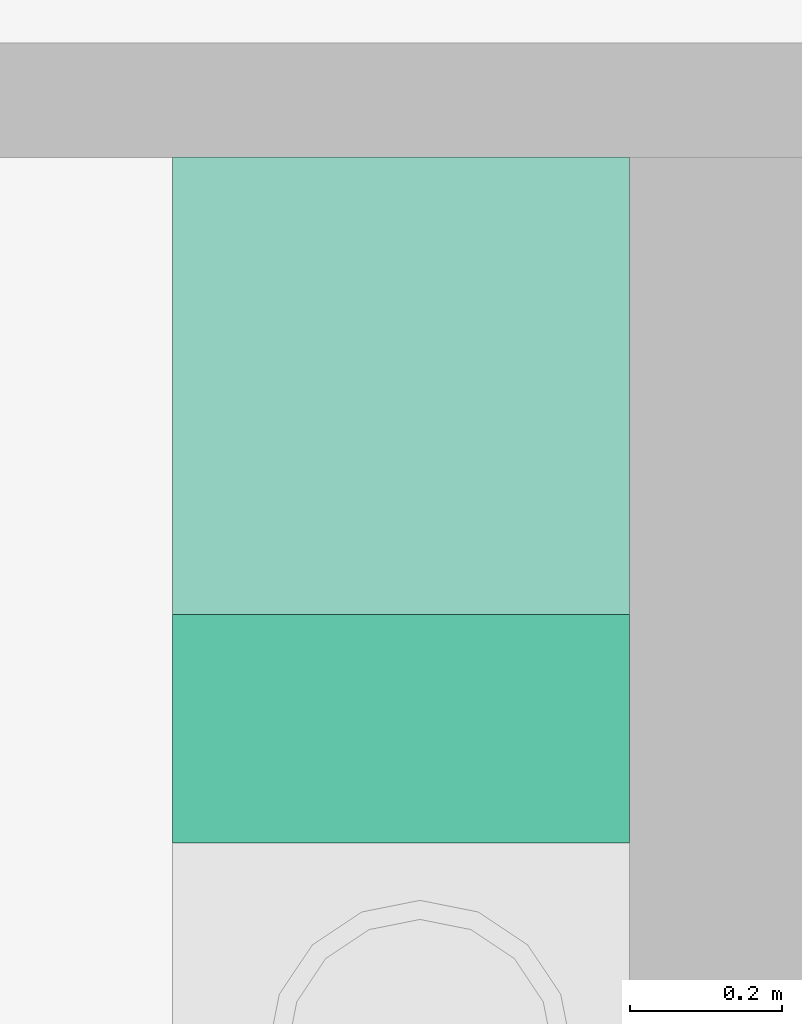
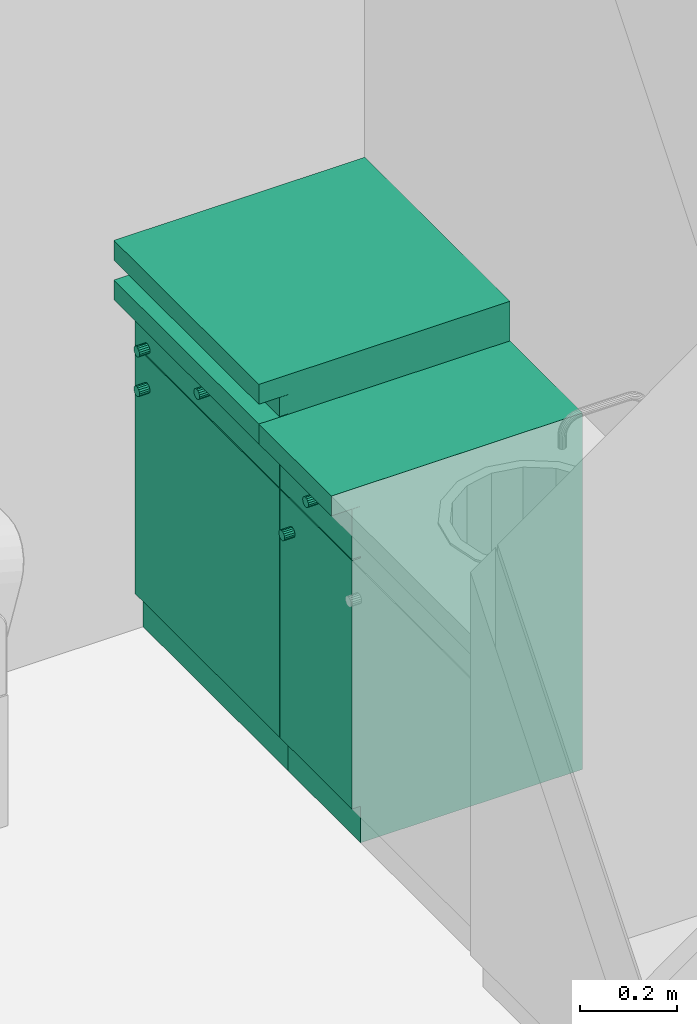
# One storey, part 41 of 165: 3 flow terminals.
"""IFC2X3 building model written with IfcOpenShell, lengths in millimetres."""

from ifc_helpers import new_model, entity, si_unit, converted_unit, money_unit, direction, frame, origin_with_axes, place, context, subcontext, project, spatial, faceted_brep, source, transform, mapped, material, material_list, type_object, element, save


model = new_model("IFC2X3")

# Units and contexts
model_context = context("Model", 3, precision=1e-05, world=origin_with_axes(), true_north=direction((0.0, 1.0)))
body_context = subcontext(model_context, "Body", "Model", "MODEL_VIEW")
ifc_project = project(units=[si_unit("LENGTHUNIT", "METRE", prefix="MILLI"), si_unit("AREAUNIT", "SQUARE_METRE"), si_unit("VOLUMEUNIT", "CUBIC_METRE"), converted_unit("PLANEANGLEUNIT", "DEGREE", entity("IfcPlaneAngleMeasure", 0.0174532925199), si_unit("PLANEANGLEUNIT", "RADIAN"), dimensions=[0, 0, 0, 0, 0, 0, 0]), si_unit("SOLIDANGLEUNIT", "STERADIAN"), money_unit("USD"), converted_unit("TIMEUNIT", "Year", entity("IfcTimeMeasure", 31556926.0), si_unit("TIMEUNIT", "SECOND"), dimensions=[0, 0, 0, 0, 0, 0, 0]), si_unit("MASSUNIT", "GRAM"), si_unit("THERMODYNAMICTEMPERATUREUNIT", "DEGREE_CELSIUS"), si_unit("LUMINOUSINTENSITYUNIT", "LUMEN")], contexts=[model_context])

# Site, building, storey
site_placement = place(None, origin_with_axes())
site = spatial("IfcSite", under=ifc_project, at=site_placement, Name="Site", CompositionType="ELEMENT")
building_placement = place(site_placement, origin_with_axes())
building = spatial("IfcBuilding", under=site, at=building_placement, Name="Building", CompositionType="ELEMENT")
storey_placement = place(building_placement, frame((0.0, 0.0, 6300.0), z_axis=(0.0, 0.0, 1.0), x_axis=(1.0, 0.0, 0.0)))
storey = spatial("IfcBuildingStorey", under=building, at=storey_placement, Name="4KORRUS", CompositionType="ELEMENT", Elevation=6300.0)

# Flow terminals
ifc_material = material(Name="Background")
ifc_material_list = material_list([ifc_material])
sanitary_terminal_type = type_object("IfcSanitaryTerminalType", Name="Cabinet Base Single Door 19", PredefinedType="SINK")
shared_shape_1 = source(origin_with_axes(), body_context, "Body", "Brep", [
    faceted_brep([(-20.0, 70.0, 710.0), (-20.0, 70.0, 730.0), (-580.0, 70.0, 730.0), (-580.0, 70.0, 710.0), (-20.0, 580.0, 710.0), (-20.0, 580.0, 730.0), (-580.0, 580.0, 730.0), (-580.0, 580.0, 710.0)], [[[0, 1, 2, 3]], [[4, 5, 1, 0]], [[1, 5, 6, 2]], [[3, 2, 6, 7]], [[0, 3, 7, 4]], [[7, 6, 5, 4]]]),
    faceted_brep([(0.0, 70.0, 0.0), (0.0, 70.0, 90.0), (-600.0, 70.0, 90.0), (-600.0, 70.0, 0.0), (0.0, 600.0, 0.0), (0.0, 600.0, 90.0), (-600.0, 600.0, 90.0), (-600.0, 600.0, 0.0)], [[[0, 1, 2, 3]], [[4, 5, 1, 0]], [[1, 5, 6, 2]], [[3, 2, 6, 7]], [[0, 3, 7, 4]], [[7, 6, 5, 4]]]),
    faceted_brep([(0.0, 70.0, 830.0), (0.0, 70.0, 850.0), (-20.0, 70.0, 850.0), (-20.0, 70.0, 830.0), (0.0, 600.0, 830.0), (0.0, 600.0, 850.0), (-20.0, 600.0, 850.0), (-580.0, 600.0, 850.0), (-600.0, 600.0, 850.0), (-600.0, 70.0, 850.0), (-580.0, 70.0, 850.0), (-580.0, 70.0, 830.0), (-600.0, 70.0, 830.0), (-600.0, 600.0, 830.0), (-580.0, 600.0, 830.0), (-20.0, 600.0, 830.0)], [[[0, 1, 2, 3]], [[4, 5, 1, 0]], [[1, 5, 6, 7, 8, 9, 10, 2]], [[3, 2, 10, 11]], [[0, 3, 11, 12, 13, 14, 15, 4]], [[15, 6, 5, 4]], [[14, 7, 6, 15]], [[13, 8, 7, 14]], [[12, 9, 8, 13]], [[11, 10, 9, 12]]]),
    faceted_brep([(0.0, 70.0, 90.0), (0.0, 70.0, 110.0), (-20.0, 70.0, 110.0), (-20.0, 70.0, 90.0), (0.0, 600.0, 90.0), (0.0, 600.0, 110.0), (-20.0, 600.0, 110.0), (-580.0, 600.0, 110.0), (-600.0, 600.0, 110.0), (-600.0, 70.0, 110.0), (-580.0, 70.0, 110.0), (-580.0, 70.0, 90.0), (-600.0, 70.0, 90.0), (-600.0, 600.0, 90.0), (-580.0, 600.0, 90.0), (-20.0, 600.0, 90.0)], [[[0, 1, 2, 3]], [[4, 5, 1, 0]], [[1, 5, 6, 7, 8, 9, 10, 2]], [[3, 2, 10, 11]], [[0, 3, 11, 12, 13, 14, 15, 4]], [[15, 6, 5, 4]], [[14, 7, 6, 15]], [[13, 8, 7, 14]], [[12, 9, 8, 13]], [[11, 10, 9, 12]]]),
    faceted_brep([(0.0, 70.0, 110.0), (0.0, 70.0, 830.0), (-20.0, 70.0, 830.0), (-20.0, 70.0, 110.0), (0.0, 600.0, 110.0), (0.0, 600.0, 830.0), (-600.0, 600.0, 830.0), (-600.0, 70.0, 830.0), (-580.0, 70.0, 830.0), (-580.0, 580.0, 830.0), (-20.0, 580.0, 830.0), (-20.0, 580.0, 110.0), (-580.0, 580.0, 110.0), (-580.0, 70.0, 110.0), (-600.0, 70.0, 110.0), (-600.0, 600.0, 110.0)], [[[0, 1, 2, 3]], [[4, 5, 1, 0]], [[1, 5, 6, 7, 8, 9, 10, 2]], [[3, 2, 10, 11]], [[0, 3, 11, 12, 13, 14, 15, 4]], [[15, 6, 5, 4]], [[14, 7, 6, 15]], [[13, 8, 7, 14]], [[12, 9, 8, 13]], [[11, 10, 9, 12]]]),
    faceted_brep([(-580.0, 70.0, 385.0), (-580.0, 70.0, 405.0), (-580.0, 580.0, 405.0), (-580.0, 580.0, 385.0), (-20.0, 70.0, 385.0), (-20.0, 70.0, 405.0), (-20.0, 580.0, 405.0), (-20.0, 580.0, 385.0)], [[[0, 1, 2, 3]], [[4, 5, 1, 0]], [[1, 5, 6, 2]], [[3, 2, 6, 7]], [[0, 3, 7, 4]], [[7, 6, 5, 4]]]),
    faceted_brep([(0.0, 0.0, 850.0), (0.0, 0.0, 900.0), (-600.0, 0.0, 900.0), (-600.0, 0.0, 850.0), (0.0, 600.0, 850.0), (0.0, 600.0, 900.0), (-600.0, 600.0, 900.0), (-600.0, 600.0, 850.0)], [[[0, 1, 2, 3]], [[4, 5, 1, 0]], [[1, 5, 6, 2]], [[3, 2, 6, 7]], [[0, 3, 7, 4]], [[7, 6, 5, 4]]]),
    faceted_brep([(-1.5, 70.0, 721.5), (-1.5, 50.0, 721.5), (-598.5, 50.0, 721.5), (-598.5, 70.0, 721.5), (-1.5, 70.0, 848.5), (-1.5, 50.0, 848.5), (-598.5, 50.0, 848.5), (-598.5, 70.0, 848.5)], [[[0, 1, 2, 3]], [[4, 5, 1, 0]], [[1, 5, 6, 2]], [[3, 2, 6, 7]], [[0, 3, 7, 4]], [[7, 6, 5, 4]]]),
    faceted_brep([(-295.408, 50.0, 773.913), (-300.0, 50.0, 773.0), (-304.592, 50.0, 773.913), (-308.485, 50.0, 776.515), (-311.087, 50.0, 780.408), (-312.0, 50.0, 785.0), (-311.087, 50.0, 789.592), (-308.485, 50.0, 793.485), (-304.592, 50.0, 796.087), (-300.0, 50.0, 797.0), (-295.408, 50.0, 796.087), (-291.515, 50.0, 793.485), (-288.913, 50.0, 789.592), (-288.0, 50.0, 785.0), (-288.913, 50.0, 780.408), (-291.515, 50.0, 776.515), (-295.408, 25.0, 773.913), (-300.0, 25.0, 773.0), (-304.592, 25.0, 773.913), (-308.485, 25.0, 776.515), (-311.087, 25.0, 780.408), (-312.0, 25.0, 785.0), (-311.087, 25.0, 789.592), (-308.485, 25.0, 793.485), (-304.592, 25.0, 796.087), (-300.0, 25.0, 797.0), (-295.408, 25.0, 796.087), (-291.515, 25.0, 793.485), (-288.913, 25.0, 789.592), (-288.0, 25.0, 785.0), (-288.913, 25.0, 780.408), (-291.515, 25.0, 776.515)], [[[0, 1, 2, 3, 4, 5, 6, 7, 8, 9, 10, 11, 12, 13, 14, 15]], [[0, 16, 17, 1]], [[1, 17, 18, 2]], [[2, 18, 19, 3]], [[3, 19, 20, 4]], [[4, 20, 21, 5]], [[5, 21, 22, 6]], [[6, 22, 23, 7]], [[7, 23, 24, 8]], [[8, 24, 25, 9]], [[9, 25, 26, 10]], [[10, 26, 27, 11]], [[11, 27, 28, 12]], [[12, 28, 29, 13]], [[13, 29, 30, 14]], [[14, 30, 31, 15]], [[15, 31, 16, 0]], [[16, 31, 30, 29, 28, 27, 26, 25, 24, 23, 22, 21, 20, 19, 18, 17]]]),
    faceted_brep([(-1.5, 70.0, 91.5), (-1.5, 50.0, 91.5), (-598.5, 50.0, 91.5), (-598.5, 70.0, 91.5), (-1.5, 70.0, 718.5), (-1.5, 50.0, 718.5), (-598.5, 50.0, 718.5), (-598.5, 70.0, 718.5)], [[[0, 1, 2, 3]], [[4, 5, 1, 0]], [[1, 5, 6, 2]], [[3, 2, 6, 7]], [[0, 3, 7, 4]], [[7, 6, 5, 4]]]),
    faceted_brep([(-559.587, 50.0, 636.908), (-560.5, 50.0, 641.5), (-559.587, 50.0, 646.092), (-556.985, 50.0, 649.985), (-553.092, 50.0, 652.587), (-548.5, 50.0, 653.5), (-543.908, 50.0, 652.587), (-540.015, 50.0, 649.985), (-537.413, 50.0, 646.092), (-536.5, 50.0, 641.5), (-537.413, 50.0, 636.908), (-540.015, 50.0, 633.015), (-543.908, 50.0, 630.413), (-548.5, 50.0, 629.5), (-553.092, 50.0, 630.413), (-556.985, 50.0, 633.015), (-559.587, 25.0, 636.908), (-560.5, 25.0, 641.5), (-559.587, 25.0, 646.092), (-556.985, 25.0, 649.985), (-553.092, 25.0, 652.587), (-548.5, 25.0, 653.5), (-543.908, 25.0, 652.587), (-540.015, 25.0, 649.985), (-537.413, 25.0, 646.092), (-536.5, 25.0, 641.5), (-537.413, 25.0, 636.908), (-540.015, 25.0, 633.015), (-543.908, 25.0, 630.413), (-548.5, 25.0, 629.5), (-553.092, 25.0, 630.413), (-556.985, 25.0, 633.015)], [[[0, 1, 2, 3, 4, 5, 6, 7, 8, 9, 10, 11, 12, 13, 14, 15]], [[0, 16, 17, 1]], [[1, 17, 18, 2]], [[2, 18, 19, 3]], [[3, 19, 20, 4]], [[4, 20, 21, 5]], [[5, 21, 22, 6]], [[6, 22, 23, 7]], [[7, 23, 24, 8]], [[8, 24, 25, 9]], [[9, 25, 26, 10]], [[10, 26, 27, 11]], [[11, 27, 28, 12]], [[12, 28, 29, 13]], [[13, 29, 30, 14]], [[14, 30, 31, 15]], [[15, 31, 16, 0]], [[16, 31, 30, 29, 28, 27, 26, 25, 24, 23, 22, 21, 20, 19, 18, 17]]]),
])
for number, where, z_axis, x_axis, name in (
    (1, (-889.296703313, -13789.2398994, 0.0), (0.0, 0.0, 1.0), (0.0, -1.0, 0.0), "FU - 007"),
    (2, (-889.296703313, -13789.2398994, 100.0), (0.0, 0.0, 1.0), (0.0, -1.0, 0.0), "FU - 007"),
):
    element("IfcFlowTerminal", number, at=place(storey_placement, frame(where, z_axis=z_axis, x_axis=x_axis)), inside=storey, type_object=sanitary_terminal_type, material=ifc_material_list, Name=name, context=body_context, shape_type="MappedRepresentation", body=[
        mapped(shared_shape_1, transform((0.0, 0.0, 0.0))),
    ])
shared_shape_2 = source(origin_with_axes(), body_context, "Body", "Brep", [
    faceted_brep([(-20.0, 70.0, 710.0), (-20.0, 70.0, 730.0), (-280.0, 70.0, 730.0), (-280.0, 70.0, 710.0), (-20.0, 580.0, 710.0), (-20.0, 580.0, 730.0), (-280.0, 580.0, 730.0), (-280.0, 580.0, 710.0)], [[[0, 1, 2, 3]], [[4, 5, 1, 0]], [[1, 5, 6, 2]], [[3, 2, 6, 7]], [[0, 3, 7, 4]], [[7, 6, 5, 4]]]),
    faceted_brep([(0.0, 70.0, 0.0), (0.0, 70.0, 90.0), (-300.0, 70.0, 90.0), (-300.0, 70.0, 0.0), (0.0, 600.0, 0.0), (0.0, 600.0, 90.0), (-300.0, 600.0, 90.0), (-300.0, 600.0, 0.0)], [[[0, 1, 2, 3]], [[4, 5, 1, 0]], [[1, 5, 6, 2]], [[3, 2, 6, 7]], [[0, 3, 7, 4]], [[7, 6, 5, 4]]]),
    faceted_brep([(0.0, 70.0, 830.0), (0.0, 70.0, 850.0), (-20.0, 70.0, 850.0), (-20.0, 70.0, 830.0), (0.0, 600.0, 830.0), (0.0, 600.0, 850.0), (-20.0, 600.0, 850.0), (-280.0, 600.0, 850.0), (-300.0, 600.0, 850.0), (-300.0, 70.0, 850.0), (-280.0, 70.0, 850.0), (-280.0, 70.0, 830.0), (-300.0, 70.0, 830.0), (-300.0, 600.0, 830.0), (-280.0, 600.0, 830.0), (-20.0, 600.0, 830.0)], [[[0, 1, 2, 3]], [[4, 5, 1, 0]], [[1, 5, 6, 7, 8, 9, 10, 2]], [[3, 2, 10, 11]], [[0, 3, 11, 12, 13, 14, 15, 4]], [[15, 6, 5, 4]], [[14, 7, 6, 15]], [[13, 8, 7, 14]], [[12, 9, 8, 13]], [[11, 10, 9, 12]]]),
    faceted_brep([(0.0, 70.0, 90.0), (0.0, 70.0, 110.0), (-20.0, 70.0, 110.0), (-20.0, 70.0, 90.0), (0.0, 600.0, 90.0), (0.0, 600.0, 110.0), (-20.0, 600.0, 110.0), (-280.0, 600.0, 110.0), (-300.0, 600.0, 110.0), (-300.0, 70.0, 110.0), (-280.0, 70.0, 110.0), (-280.0, 70.0, 90.0), (-300.0, 70.0, 90.0), (-300.0, 600.0, 90.0), (-280.0, 600.0, 90.0), (-20.0, 600.0, 90.0)], [[[0, 1, 2, 3]], [[4, 5, 1, 0]], [[1, 5, 6, 7, 8, 9, 10, 2]], [[3, 2, 10, 11]], [[0, 3, 11, 12, 13, 14, 15, 4]], [[15, 6, 5, 4]], [[14, 7, 6, 15]], [[13, 8, 7, 14]], [[12, 9, 8, 13]], [[11, 10, 9, 12]]]),
    faceted_brep([(0.0, 70.0, 110.0), (0.0, 70.0, 830.0), (-20.0, 70.0, 830.0), (-20.0, 70.0, 110.0), (0.0, 600.0, 110.0), (0.0, 600.0, 830.0), (-300.0, 600.0, 830.0), (-300.0, 70.0, 830.0), (-280.0, 70.0, 830.0), (-280.0, 580.0, 830.0), (-20.0, 580.0, 830.0), (-20.0, 580.0, 110.0), (-280.0, 580.0, 110.0), (-280.0, 70.0, 110.0), (-300.0, 70.0, 110.0), (-300.0, 600.0, 110.0)], [[[0, 1, 2, 3]], [[4, 5, 1, 0]], [[1, 5, 6, 7, 8, 9, 10, 2]], [[3, 2, 10, 11]], [[0, 3, 11, 12, 13, 14, 15, 4]], [[15, 6, 5, 4]], [[14, 7, 6, 15]], [[13, 8, 7, 14]], [[12, 9, 8, 13]], [[11, 10, 9, 12]]]),
    faceted_brep([(-280.0, 70.0, 385.0), (-280.0, 70.0, 405.0), (-280.0, 580.0, 405.0), (-280.0, 580.0, 385.0), (-20.0, 70.0, 385.0), (-20.0, 70.0, 405.0), (-20.0, 580.0, 405.0), (-20.0, 580.0, 385.0)], [[[0, 1, 2, 3]], [[4, 5, 1, 0]], [[1, 5, 6, 2]], [[3, 2, 6, 7]], [[0, 3, 7, 4]], [[7, 6, 5, 4]]]),
    faceted_brep([(0.0, 0.0, 850.0), (0.0, 0.0, 900.0), (-300.0, 0.0, 900.0), (-300.0, 0.0, 850.0), (0.0, 600.0, 850.0), (0.0, 600.0, 900.0), (-300.0, 600.0, 900.0), (-300.0, 600.0, 850.0)], [[[0, 1, 2, 3]], [[4, 5, 1, 0]], [[1, 5, 6, 2]], [[3, 2, 6, 7]], [[0, 3, 7, 4]], [[7, 6, 5, 4]]]),
    faceted_brep([(-1.5, 70.0, 721.5), (-1.5, 50.0, 721.5), (-298.5, 50.0, 721.5), (-298.5, 70.0, 721.5), (-1.5, 70.0, 848.5), (-1.5, 50.0, 848.5), (-298.5, 50.0, 848.5), (-298.5, 70.0, 848.5)], [[[0, 1, 2, 3]], [[4, 5, 1, 0]], [[1, 5, 6, 2]], [[3, 2, 6, 7]], [[0, 3, 7, 4]], [[7, 6, 5, 4]]]),
    faceted_brep([(-145.408, 50.0, 773.913), (-150.0, 50.0, 773.0), (-154.592, 50.0, 773.913), (-158.485, 50.0, 776.515), (-161.087, 50.0, 780.408), (-162.0, 50.0, 785.0), (-161.087, 50.0, 789.592), (-158.485, 50.0, 793.485), (-154.592, 50.0, 796.087), (-150.0, 50.0, 797.0), (-145.408, 50.0, 796.087), (-141.515, 50.0, 793.485), (-138.913, 50.0, 789.592), (-138.0, 50.0, 785.0), (-138.913, 50.0, 780.408), (-141.515, 50.0, 776.515), (-145.408, 25.0, 773.913), (-150.0, 25.0, 773.0), (-154.592, 25.0, 773.913), (-158.485, 25.0, 776.515), (-161.087, 25.0, 780.408), (-162.0, 25.0, 785.0), (-161.087, 25.0, 789.592), (-158.485, 25.0, 793.485), (-154.592, 25.0, 796.087), (-150.0, 25.0, 797.0), (-145.408, 25.0, 796.087), (-141.515, 25.0, 793.485), (-138.913, 25.0, 789.592), (-138.0, 25.0, 785.0), (-138.913, 25.0, 780.408), (-141.515, 25.0, 776.515)], [[[0, 1, 2, 3, 4, 5, 6, 7, 8, 9, 10, 11, 12, 13, 14, 15]], [[0, 16, 17, 1]], [[1, 17, 18, 2]], [[2, 18, 19, 3]], [[3, 19, 20, 4]], [[4, 20, 21, 5]], [[5, 21, 22, 6]], [[6, 22, 23, 7]], [[7, 23, 24, 8]], [[8, 24, 25, 9]], [[9, 25, 26, 10]], [[10, 26, 27, 11]], [[11, 27, 28, 12]], [[12, 28, 29, 13]], [[13, 29, 30, 14]], [[14, 30, 31, 15]], [[15, 31, 16, 0]], [[16, 31, 30, 29, 28, 27, 26, 25, 24, 23, 22, 21, 20, 19, 18, 17]]]),
    faceted_brep([(-1.5, 70.0, 91.5), (-1.5, 50.0, 91.5), (-298.5, 50.0, 91.5), (-298.5, 70.0, 91.5), (-1.5, 70.0, 718.5), (-1.5, 50.0, 718.5), (-298.5, 50.0, 718.5), (-298.5, 70.0, 718.5)], [[[0, 1, 2, 3]], [[4, 5, 1, 0]], [[1, 5, 6, 2]], [[3, 2, 6, 7]], [[0, 3, 7, 4]], [[7, 6, 5, 4]]]),
    faceted_brep([(-259.587, 50.0, 636.908), (-260.5, 50.0, 641.5), (-259.587, 50.0, 646.092), (-256.985, 50.0, 649.985), (-253.092, 50.0, 652.587), (-248.5, 50.0, 653.5), (-243.908, 50.0, 652.587), (-240.015, 50.0, 649.985), (-237.413, 50.0, 646.092), (-236.5, 50.0, 641.5), (-237.413, 50.0, 636.908), (-240.015, 50.0, 633.015), (-243.908, 50.0, 630.413), (-248.5, 50.0, 629.5), (-253.092, 50.0, 630.413), (-256.985, 50.0, 633.015), (-259.587, 25.0, 636.908), (-260.5, 25.0, 641.5), (-259.587, 25.0, 646.092), (-256.985, 25.0, 649.985), (-253.092, 25.0, 652.587), (-248.5, 25.0, 653.5), (-243.908, 25.0, 652.587), (-240.015, 25.0, 649.985), (-237.413, 25.0, 646.092), (-236.5, 25.0, 641.5), (-237.413, 25.0, 636.908), (-240.015, 25.0, 633.015), (-243.908, 25.0, 630.413), (-248.5, 25.0, 629.5), (-253.092, 25.0, 630.413), (-256.985, 25.0, 633.015)], [[[0, 1, 2, 3, 4, 5, 6, 7, 8, 9, 10, 11, 12, 13, 14, 15]], [[0, 16, 17, 1]], [[1, 17, 18, 2]], [[2, 18, 19, 3]], [[3, 19, 20, 4]], [[4, 20, 21, 5]], [[5, 21, 22, 6]], [[6, 22, 23, 7]], [[7, 23, 24, 8]], [[8, 24, 25, 9]], [[9, 25, 26, 10]], [[10, 26, 27, 11]], [[11, 27, 28, 12]], [[12, 28, 29, 13]], [[13, 29, 30, 14]], [[14, 30, 31, 15]], [[15, 31, 16, 0]], [[16, 31, 30, 29, 28, 27, 26, 25, 24, 23, 22, 21, 20, 19, 18, 17]]]),
])
flow_terminal_placement = place(storey_placement, frame((-889.296703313, -14089.2398994, 0.0), z_axis=(0.0, 0.0, 1.0), x_axis=(0.0, -1.0, 0.0)))
element("IfcFlowTerminal", 3, at=flow_terminal_placement, inside=storey, type_object=sanitary_terminal_type, material=ifc_material_list, Name="FU - 007", context=body_context, shape_type="MappedRepresentation", body=[
    mapped(shared_shape_2, transform((0.0, 0.0, 0.0))),
])

save(model, "model.ifc")
